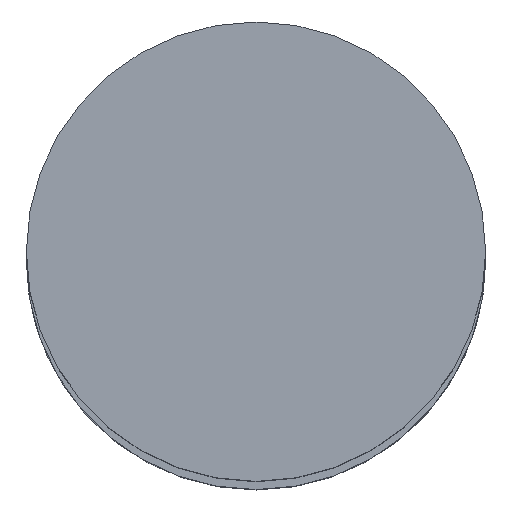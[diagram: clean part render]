
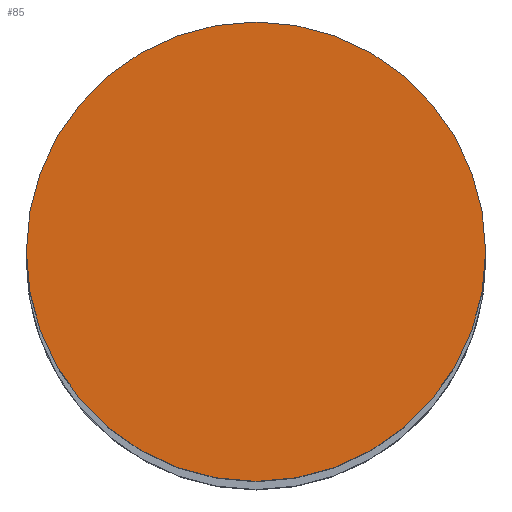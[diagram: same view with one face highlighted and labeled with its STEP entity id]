
A CAD part, top view. The second image highlights one B-rep face of the part: STEP entity #85.
In plain terms, the highlighted planar face has unit normal (0, 0, 1).
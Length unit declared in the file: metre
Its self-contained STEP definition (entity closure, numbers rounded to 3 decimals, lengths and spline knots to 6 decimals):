
#85=ADVANCED_FACE('56:4857',(#165),#166,.F.);
#165=FACE_OUTER_BOUND('',#244,.T.);
#166=PLANE('',#245);
#244=EDGE_LOOP('',(#390,#391));
#245=AXIS2_PLACEMENT_3D('',#392,#393,#394);
#390=ORIENTED_EDGE('',*,*,#433,.F.);
#391=ORIENTED_EDGE('',*,*,#478,.F.);
#392=CARTESIAN_POINT('',(-0.000092,0.000095,3.054));
#393=DIRECTION('',(0.0,0.0,-1.0));
#394=DIRECTION('',(1.0,0.0,0.0));
#433=EDGE_CURVE('27:1418',#505,#501,#507,.T.);
#478=EDGE_CURVE('',#501,#505,#572,.T.);
#501=VERTEX_POINT('',#607);
#505=VERTEX_POINT('',#612);
#507=CIRCLE('',#615,0.0155);
#572=CIRCLE('',#694,0.0155);
#607=CARTESIAN_POINT('',(0.015408,0.000095,3.054));
#612=CARTESIAN_POINT('',(-0.015592,0.000095,3.054));
#615=AXIS2_PLACEMENT_3D('',#736,#737,#738);
#694=AXIS2_PLACEMENT_3D('',#801,#802,#803);
#736=CARTESIAN_POINT('',(-0.000092,0.000095,3.054));
#737=DIRECTION('',(0.0,0.0,-1.0));
#738=DIRECTION('',(1.0,0.0,0.0));
#801=CARTESIAN_POINT('',(-0.000092,0.000095,3.054));
#802=DIRECTION('',(0.0,0.0,-1.0));
#803=DIRECTION('',(1.0,0.0,0.0));
